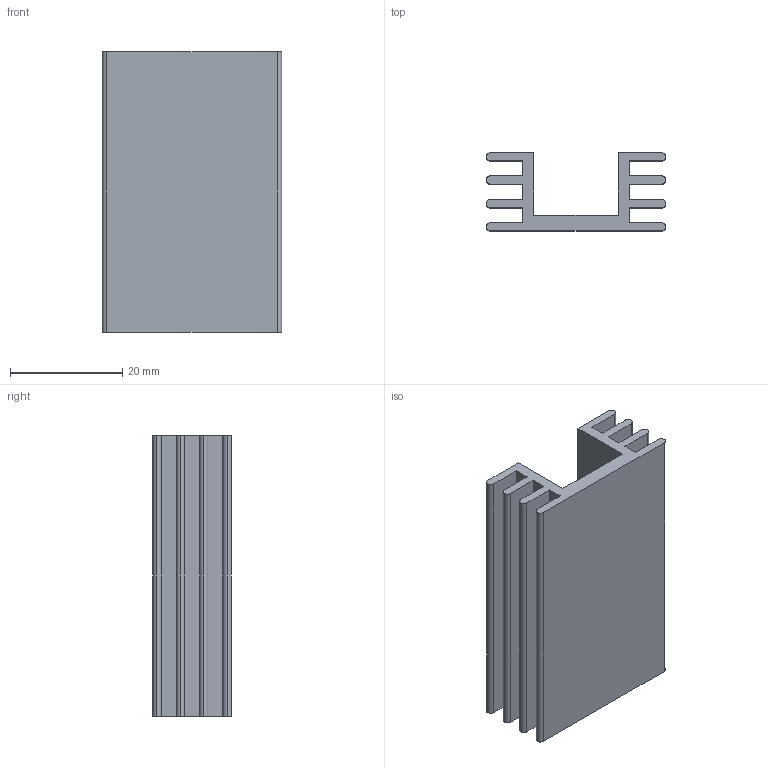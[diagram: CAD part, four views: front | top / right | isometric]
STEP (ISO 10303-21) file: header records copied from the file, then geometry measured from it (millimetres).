
FILE_DESCRIPTION (( 'STEP AP203' ), '1' );
FILE_NAME ('PR 27-50.step', '2002-10-21T08:46:07', ( 'Wolfgang Müller' ), ( 'DPS' ), 'SwSTEP 2.0', 'SolidWorks 2002264', '' );
FILE_SCHEMA (( 'CONFIG_CONTROL_DESIGN' ));
Length unit declared in the file: millimetre
Products named in the file (1): PR 27-50
Bounding box: 32 x 14 x 50 mm (x, y, z)
Volume: 8703.4 mm3; surface area: 9710.6 mm2
Topology: 1 solids, 1 shells, 38 faces, 108 edges, 72 vertices
Faces by surface type: plane 26, cylinder 12
Entity records: 1313 total; most frequent: CARTESIAN_POINT 219, ORIENTED_EDGE 216, DIRECTION 210, EDGE_CURVE 108, LINE 84, VECTOR 84, VERTEX_POINT 72, AXIS2_PLACEMENT_3D 63
